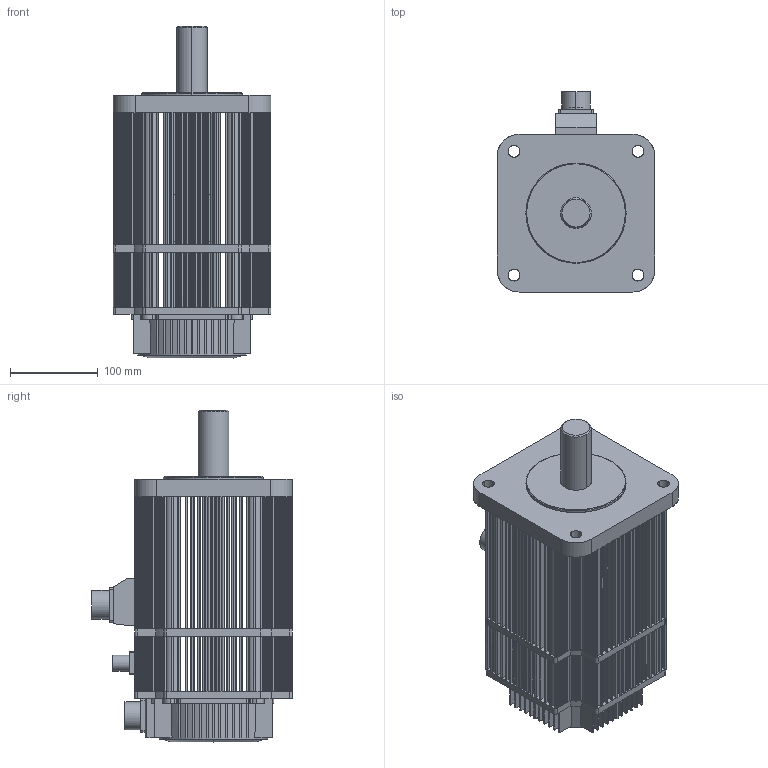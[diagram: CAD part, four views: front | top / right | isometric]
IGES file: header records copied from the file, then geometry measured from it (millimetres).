
Start section: SolidWorks IGES file using analytic representation for surfaces
Global section: file name: H:\estun\zhangjian\电机外观文件（solidworks2009 零件 文件）\IGS\EMG-30A_with holding brake.IGS; native system: SolidWorks 2009; preprocessor: SolidWorks 2009; author: Administrator; date: 100804.094840; units: millimetre
Bounding box: 180 x 229 x 379 mm (x, y, z)
Surface area: 491042.1 mm2 (no closed solid volume)
Topology: 0 solids, 0 shells, 1977 faces, 19850 edges, 19850 vertices
Faces by surface type: bspline 1102, revolution 875
